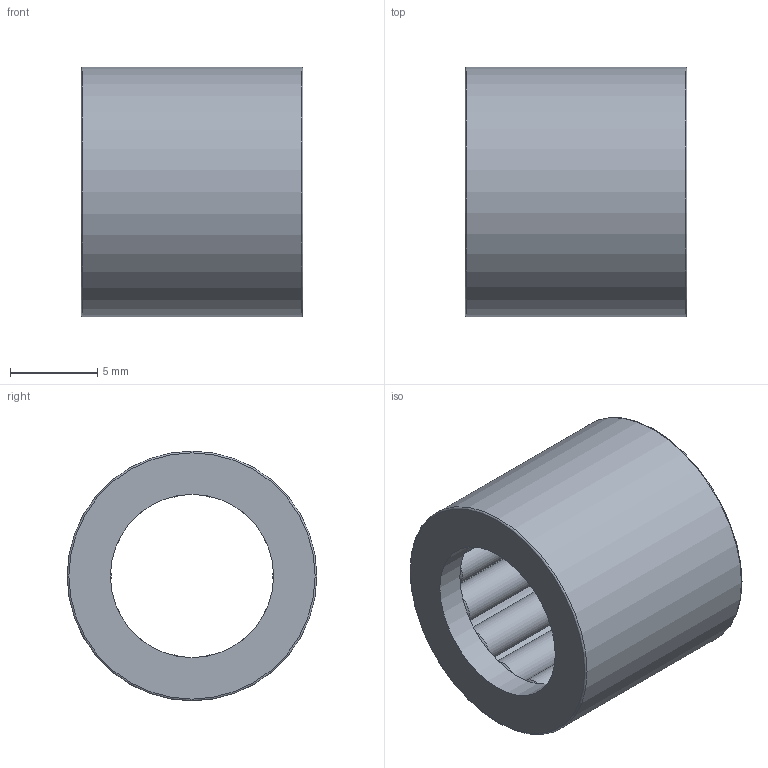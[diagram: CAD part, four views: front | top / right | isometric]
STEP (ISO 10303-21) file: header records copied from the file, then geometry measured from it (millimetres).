
FILE_DESCRIPTION(/* description */ (''),/* implementation_level */ '2;1');
FILE_NAME(/* name */ 'C:\Users\OUREHANEKD\Desktop\Ihlove loziska\F\F--\F9.52x14.29x12.7.stp',/* time_stamp */ '2016-10-11T13:20:57+02:00',/* author */ ('OUREHANEKD'),/* organization */ (''),/* preprocessor_version */ 'ST-DEVELOPER v15.6',/* originating_system */ 'Autodesk Inventor 2015',/* authorisation */ '');
FILE_SCHEMA (('AUTOMOTIVE_DESIGN { 1 0 10303 214 3 1 1 }'));
Length unit declared in the file: millimetre
Products named in the file (3): F9.52x14.29x12.7-01; F9.52x14.29x12.7-ihla; F9.52x14.29x12.7
Assembly tree (15 placements, depth 2):
  F9.52x14.29x12.7
    F9.52x14.29x12.7-01
    F9.52x14.29x12.7-ihla  x14
Bounding box: 12.7 x 14.29 x 14.29 mm (x, y, z)
Volume: 798.3 mm3; surface area: 2501.6 mm2
Topology: 15 solids, 15 shells, 55 faces, 120 edges, 69 vertices
Faces by surface type: cone 31, cylinder 18, plane 4, torus 2
Full cylindrical faces by diameter (mm): 2.091 x14, 9.342 x2, 13.433 x1, 14.29 x1
Entity records: 487 total; most frequent: DIRECTION 98, CARTESIAN_POINT 64, AXIS2_PLACEMENT_3D 49, EDGE_LOOP 30, ORIENTED_EDGE 30, PRODUCT_DEFINITION_SHAPE 18, FACE_OUTER_BOUND 16, ADVANCED_FACE 16
